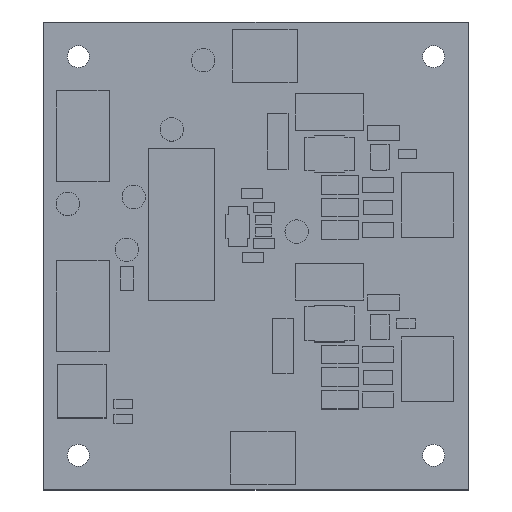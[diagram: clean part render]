
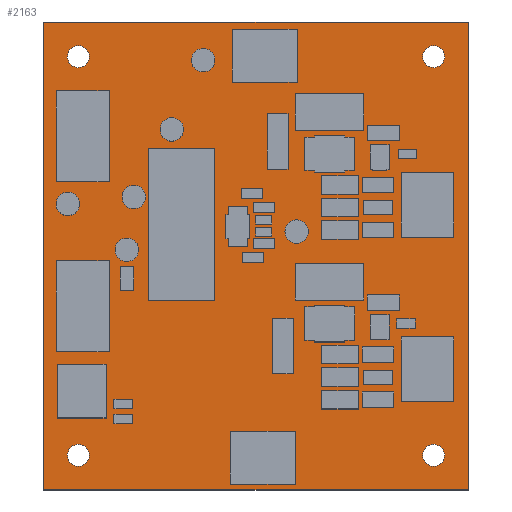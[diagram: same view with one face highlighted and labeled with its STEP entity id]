
A CAD part, top view. The second image highlights one B-rep face of the part: STEP entity #2163.
In plain terms, the highlighted planar face has unit normal (0, 0, 1).
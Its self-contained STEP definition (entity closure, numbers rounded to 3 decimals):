
#304=CIRCLE($,#1613,1.6);
#305=CIRCLE($,#1614,1.6);
#308=CIRCLE($,#1619,1.6);
#309=CIRCLE($,#1620,1.6);
#312=CIRCLE($,#1625,1.6);
#313=CIRCLE($,#1626,1.6);
#316=CIRCLE($,#1631,1.6);
#317=CIRCLE($,#1632,1.6);
#1187=FACE_OUTER_BOUND($,#1397,.F.);
#1193=FACE_OUTER_BOUND($,#1403,.T.);
#1197=FACE_OUTER_BOUND($,#1407,.T.);
#1201=FACE_OUTER_BOUND($,#1411,.T.);
#1205=FACE_OUTER_BOUND($,#1415,.T.);
#1397=EDGE_LOOP($,(#2365,#2366,#2367,#2368));
#1403=EDGE_LOOP($,(#2389,#2390));
#1407=EDGE_LOOP($,(#2401,#2402));
#1411=EDGE_LOOP($,(#2413,#2414));
#1415=EDGE_LOOP($,(#2425,#2426));
#1607=AXIS2_PLACEMENT_3D($,#6039,#5296,$);
#1613=AXIS2_PLACEMENT_3D($,#6051,#5296,$);
#1614=AXIS2_PLACEMENT_3D($,#6052,#5296,$);
#1619=AXIS2_PLACEMENT_3D($,#6063,#5296,$);
#1620=AXIS2_PLACEMENT_3D($,#6064,#5296,$);
#1625=AXIS2_PLACEMENT_3D($,#6075,#5296,$);
#1626=AXIS2_PLACEMENT_3D($,#6076,#5296,$);
#1631=AXIS2_PLACEMENT_3D($,#6087,#5296,$);
#1632=AXIS2_PLACEMENT_3D($,#6088,#5296,$);
#1971=PLANE($,#1607);
#2163=ADVANCED_FACE($,(#1187,#1193,#1197,#1201,#1205),#1971,.T.);
#2365=ORIENTED_EDGE($,*,*,#3265,.T.);
#2366=ORIENTED_EDGE($,*,*,#3266,.T.);
#2367=ORIENTED_EDGE($,*,*,#3267,.T.);
#2368=ORIENTED_EDGE($,*,*,#3268,.T.);
#2389=ORIENTED_EDGE($,*,*,#3278,.T.);
#2390=ORIENTED_EDGE($,*,*,#3279,.T.);
#2401=ORIENTED_EDGE($,*,*,#3285,.T.);
#2402=ORIENTED_EDGE($,*,*,#3286,.T.);
#2413=ORIENTED_EDGE($,*,*,#3292,.T.);
#2414=ORIENTED_EDGE($,*,*,#3293,.T.);
#2425=ORIENTED_EDGE($,*,*,#3299,.T.);
#2426=ORIENTED_EDGE($,*,*,#3300,.T.);
#3265=EDGE_CURVE($,#4665,#4666,#4205,.T.);
#3266=EDGE_CURVE($,#4666,#4667,#4206,.T.);
#3267=EDGE_CURVE($,#4667,#4668,#4207,.T.);
#3268=EDGE_CURVE($,#4668,#4665,#4208,.T.);
#3278=EDGE_CURVE($,#4675,#4676,#304,.F.);
#3279=EDGE_CURVE($,#4676,#4675,#305,.F.);
#3285=EDGE_CURVE($,#4681,#4682,#308,.F.);
#3286=EDGE_CURVE($,#4682,#4681,#309,.F.);
#3292=EDGE_CURVE($,#4687,#4688,#312,.F.);
#3293=EDGE_CURVE($,#4688,#4687,#313,.F.);
#3299=EDGE_CURVE($,#4693,#4694,#316,.F.);
#3300=EDGE_CURVE($,#4694,#4693,#317,.F.);
#3745=VECTOR($,#5299,68.58);
#3746=VECTOR($,#5300,62.23);
#3747=VECTOR($,#5301,68.58);
#3748=VECTOR($,#5302,62.23);
#4205=LINE($,#6038,#3745);
#4206=LINE($,#6039,#3746);
#4207=LINE($,#6040,#3747);
#4208=LINE($,#6041,#3748);
#4665=VERTEX_POINT($,#6038);
#4666=VERTEX_POINT($,#6039);
#4667=VERTEX_POINT($,#6040);
#4668=VERTEX_POINT($,#6041);
#4675=VERTEX_POINT($,#6048);
#4676=VERTEX_POINT($,#6049);
#4681=VERTEX_POINT($,#6060);
#4682=VERTEX_POINT($,#6061);
#4687=VERTEX_POINT($,#6072);
#4688=VERTEX_POINT($,#6073);
#4693=VERTEX_POINT($,#6084);
#4694=VERTEX_POINT($,#6085);
#5296=DIRECTION($,(0.,0.,1.));
#5299=DIRECTION($,(0.,-1.,0.));
#5300=DIRECTION($,(-1.,0.,0.));
#5301=DIRECTION($,(0.,1.,0.));
#5302=DIRECTION($,(1.,0.,0.));
#6038=CARTESIAN_POINT('',(62.23,68.58,0.));
#6039=CARTESIAN_POINT('',(62.23,0.,0.));
#6040=CARTESIAN_POINT('',(0.,0.,0.));
#6041=CARTESIAN_POINT('',(0.,68.58,0.));
#6048=CARTESIAN_POINT('',(6.68,63.5,0.));
#6049=CARTESIAN_POINT('',(3.48,63.5,0.));
#6051=CARTESIAN_POINT('',(5.08,63.5,0.));
#6052=CARTESIAN_POINT('',(5.08,63.5,0.));
#6060=CARTESIAN_POINT('',(58.75,63.5,0.));
#6061=CARTESIAN_POINT('',(55.55,63.5,0.));
#6063=CARTESIAN_POINT('',(57.15,63.5,0.));
#6064=CARTESIAN_POINT('',(57.15,63.5,0.));
#6072=CARTESIAN_POINT('',(58.75,5.08,0.));
#6073=CARTESIAN_POINT('',(55.55,5.08,0.));
#6075=CARTESIAN_POINT('',(57.15,5.08,0.));
#6076=CARTESIAN_POINT('',(57.15,5.08,0.));
#6084=CARTESIAN_POINT('',(6.68,5.08,0.));
#6085=CARTESIAN_POINT('',(3.48,5.08,0.));
#6087=CARTESIAN_POINT('',(5.08,5.08,0.));
#6088=CARTESIAN_POINT('',(5.08,5.08,0.));
